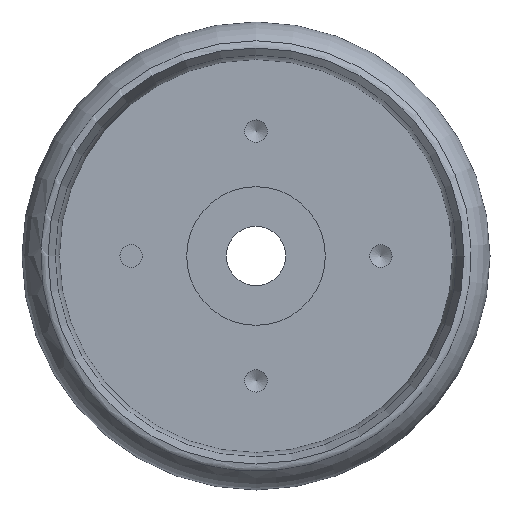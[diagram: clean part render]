
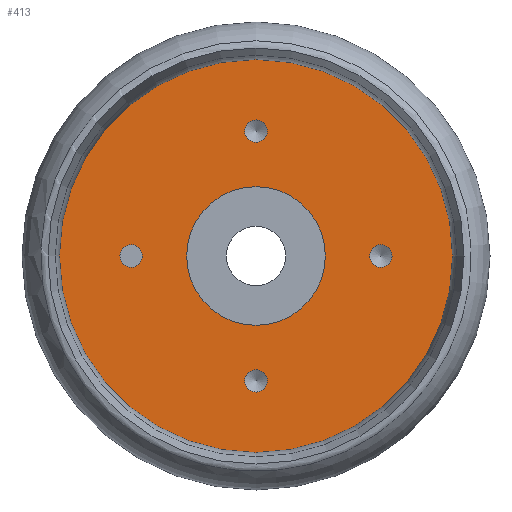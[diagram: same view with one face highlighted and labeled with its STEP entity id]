
A CAD part, front view. The second image highlights one B-rep face of the part: STEP entity #413.
In plain terms, the highlighted planar face has unit normal (0, -1, 0).
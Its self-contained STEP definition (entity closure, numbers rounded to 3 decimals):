
#16 = CARTESIAN_POINT ( 'NONE',  ( 18., 2.642, 1.621 ) ) ;
#22 = ORIENTED_EDGE ( 'NONE', *, *, #119, .F. ) ;
#26 = CARTESIAN_POINT ( 'NONE',  ( 18., 2.642, 0. ) ) ;
#29 = DIRECTION ( 'NONE',  ( 0., 0., 1. ) ) ;
#33 = EDGE_LOOP ( 'NONE', ( #107 ) ) ;
#53 = VERTEX_POINT ( 'NONE', #416 ) ;
#69 = AXIS2_PLACEMENT_3D ( 'NONE', #134, #451, #281 ) ;
#92 = EDGE_CURVE ( 'NONE', #545, #545, #246, .T. ) ;
#94 = FACE_BOUND ( 'NONE', #566, .T. ) ;
#107 = ORIENTED_EDGE ( 'NONE', *, *, #353, .F. ) ;
#114 = CARTESIAN_POINT ( 'NONE',  ( 0., 2.642, 28.358 ) ) ;
#115 = DIRECTION ( 'NONE',  ( 0., 0., 1. ) ) ;
#118 = DIRECTION ( 'NONE',  ( 0., -1., 0. ) ) ;
#119 = EDGE_CURVE ( 'NONE', #472, #472, #561, .T. ) ;
#122 = CARTESIAN_POINT ( 'NONE',  ( 0., 2.642, -18. ) ) ;
#129 = DIRECTION ( 'NONE',  ( 0., 1., 0. ) ) ;
#130 = ORIENTED_EDGE ( 'NONE', *, *, #250, .F. ) ;
#134 = CARTESIAN_POINT ( 'NONE',  ( 0., 2.642, 28.358 ) ) ;
#141 = FACE_BOUND ( 'NONE', #253, .T. ) ;
#143 = EDGE_CURVE ( 'NONE', #515, #515, #478, .T. ) ;
#151 = AXIS2_PLACEMENT_3D ( 'NONE', #26, #562, #507 ) ;
#153 = VERTEX_POINT ( 'NONE', #185 ) ;
#162 = DIRECTION ( 'NONE',  ( 0., 0., 1. ) ) ;
#185 = CARTESIAN_POINT ( 'NONE',  ( 0., 2.642, 10. ) ) ;
#189 = DIRECTION ( 'NONE',  ( 0., 1., 0. ) ) ;
#190 = CIRCLE ( 'NONE', #375, 1.621 ) ;
#230 = EDGE_CURVE ( 'NONE', #153, #153, #471, .T. ) ;
#241 = ORIENTED_EDGE ( 'NONE', *, *, #143, .F. ) ;
#246 = CIRCLE ( 'NONE', #497, 1.621 ) ;
#250 = EDGE_CURVE ( 'NONE', #289, #289, #275, .T. ) ;
#253 = EDGE_LOOP ( 'NONE', ( #22 ) ) ;
#256 = DIRECTION ( 'NONE',  ( 0., 0., 1. ) ) ;
#266 = EDGE_LOOP ( 'NONE', ( #439 ) ) ;
#270 = FACE_BOUND ( 'NONE', #517, .T. ) ;
#275 = CIRCLE ( 'NONE', #368, 1.621 ) ;
#277 = FACE_OUTER_BOUND ( 'NONE', #510, .T. ) ;
#279 = FACE_BOUND ( 'NONE', #33, .T. ) ;
#281 = DIRECTION ( 'NONE',  ( 0., 0., 1. ) ) ;
#288 = CARTESIAN_POINT ( 'NONE',  ( 0., 2.642, 0. ) ) ;
#289 = VERTEX_POINT ( 'NONE', #330 ) ;
#296 = CARTESIAN_POINT ( 'NONE',  ( 0., 2.642, 18. ) ) ;
#330 = CARTESIAN_POINT ( 'NONE',  ( -18., 2.642, -1.621 ) ) ;
#353 = EDGE_CURVE ( 'NONE', #53, #53, #190, .T. ) ;
#356 = FACE_BOUND ( 'NONE', #266, .T. ) ;
#368 = AXIS2_PLACEMENT_3D ( 'NONE', #431, #118, #435 ) ;
#375 = AXIS2_PLACEMENT_3D ( 'NONE', #122, #567, #256 ) ;
#399 = AXIS2_PLACEMENT_3D ( 'NONE', #401, #129, #29 ) ;
#401 = CARTESIAN_POINT ( 'NONE',  ( 0., 2.642, 0. ) ) ;
#408 = PLANE ( 'NONE',  #69 ) ;
#413 = ADVANCED_FACE ( 'NONE', ( #94, #141, #356, #277, #270, #279 ), #408, .F. ) ;
#416 = CARTESIAN_POINT ( 'NONE',  ( 0., 2.642, -16.379 ) ) ;
#426 = CARTESIAN_POINT ( 'NONE',  ( 0., 2.642, 19.621 ) ) ;
#431 = CARTESIAN_POINT ( 'NONE',  ( -18., 2.642, 0. ) ) ;
#435 = DIRECTION ( 'NONE',  ( 0., 0., -1. ) ) ;
#439 = ORIENTED_EDGE ( 'NONE', *, *, #230, .T. ) ;
#451 = DIRECTION ( 'NONE',  ( 0., 1., 0. ) ) ;
#471 = CIRCLE ( 'NONE', #399, 10. ) ;
#472 = VERTEX_POINT ( 'NONE', #16 ) ;
#478 = CIRCLE ( 'NONE', #551, 28.358 ) ;
#497 = AXIS2_PLACEMENT_3D ( 'NONE', #296, #556, #162 ) ;
#507 = DIRECTION ( 'NONE',  ( 0., 0., 1. ) ) ;
#510 = EDGE_LOOP ( 'NONE', ( #241 ) ) ;
#515 = VERTEX_POINT ( 'NONE', #114 ) ;
#517 = EDGE_LOOP ( 'NONE', ( #550 ) ) ;
#545 = VERTEX_POINT ( 'NONE', #426 ) ;
#550 = ORIENTED_EDGE ( 'NONE', *, *, #92, .F. ) ;
#551 = AXIS2_PLACEMENT_3D ( 'NONE', #288, #189, #115 ) ;
#556 = DIRECTION ( 'NONE',  ( 0., -1., 0. ) ) ;
#561 = CIRCLE ( 'NONE', #151, 1.621 ) ;
#562 = DIRECTION ( 'NONE',  ( 0., -1., 0. ) ) ;
#566 = EDGE_LOOP ( 'NONE', ( #130 ) ) ;
#567 = DIRECTION ( 'NONE',  ( 0., -1., 0. ) ) ;
